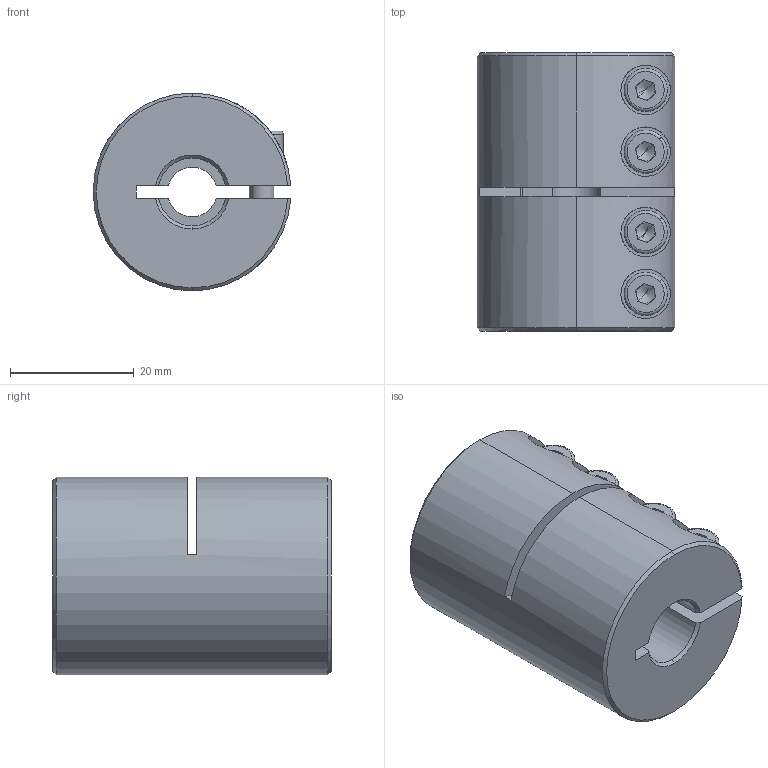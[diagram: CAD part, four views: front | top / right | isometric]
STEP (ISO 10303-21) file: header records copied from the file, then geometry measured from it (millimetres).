
FILE_DESCRIPTION (( 'STEP AP214' ), '1' );
FILE_NAME ('LL-B-D32L45-8-11½¨Ä£.STEP', '2022-07-21T07:01:20', ( '' ), ( '' ), 'SwSTEP 2.0', 'SolidWorks 2022', '' );
FILE_SCHEMA (( 'AUTOMOTIVE_DESIGN' ));
Length unit declared in the file: millimetre
Products named in the file (1): LL-B-D32L45-8-11膘耀
Bounding box: 31.97 x 45 x 32 mm (x, y, z)
Volume: 30365.9 mm3; surface area: 10791.2 mm2
Topology: 1 solids, 1 shells, 193 faces, 492 edges, 309 vertices
Faces by surface type: plane 88, cylinder 77, cone 20, torus 8
Entity records: 6357 total; most frequent: CARTESIAN_POINT 1583, DIRECTION 1037, ORIENTED_EDGE 968, EDGE_CURVE 484, AXIS2_PLACEMENT_3D 403, VERTEX_POINT 309, LINE 231, VECTOR 231
